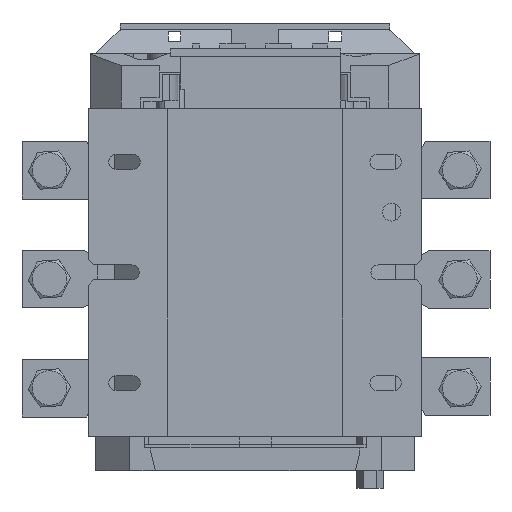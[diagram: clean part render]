
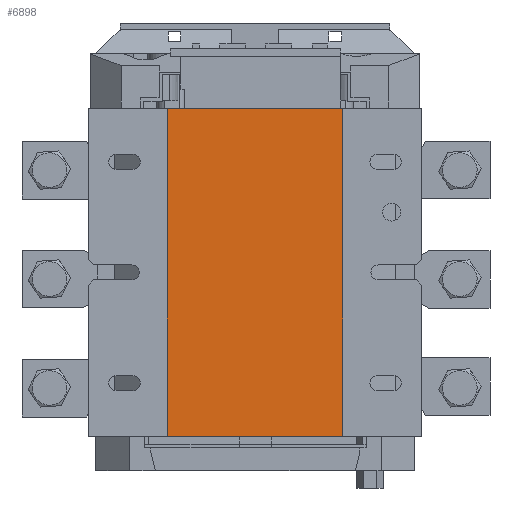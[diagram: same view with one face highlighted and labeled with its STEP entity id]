
A CAD part, front view. The second image highlights one B-rep face of the part: STEP entity #6898.
In plain terms, the highlighted planar face has unit normal (0, -1, 0).
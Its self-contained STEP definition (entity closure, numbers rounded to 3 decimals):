
#3291 = DIRECTION ( 'NONE',  ( 1., 0., 0. ) ) ;
#3292 = VECTOR ( 'NONE', #3291, 1000. ) ;
#3293 = CARTESIAN_POINT ( 'NONE',  ( -38., 0., 142.1 ) ) ;
#3294 = LINE ( 'NONE', #3293, #3292 ) ;
#3295 = CARTESIAN_POINT ( 'NONE',  ( -38., 0., 142.1 ) ) ;
#3396 = CARTESIAN_POINT ( 'NONE',  ( 38., 0., 142.1 ) ) ;
#6756 = VERTEX_POINT ( 'NONE', #17495 ) ;
#6780 = VERTEX_POINT ( 'NONE', #17588 ) ;
#6782 = EDGE_CURVE ( 'NONE', #6756, #6780, #17587, .T. ) ;
#6876 = ORIENTED_EDGE ( 'NONE', *, *, #6877, .F. ) ;
#6877 = EDGE_CURVE ( 'NONE', #15513, #6780, #17748, .T. ) ;
#6878 = ORIENTED_EDGE ( 'NONE', *, *, #15454, .F. ) ;
#6879 = ORIENTED_EDGE ( 'NONE', *, *, #6895, .T. ) ;
#6895 = EDGE_CURVE ( 'NONE', #15452, #6756, #17780, .T. ) ;
#6898 = ADVANCED_FACE ( 'NONE', ( #17776 ), #17775, .F. ) ;
#6899 = EDGE_LOOP ( 'NONE', ( #6900, #6876, #6878, #6879 ) ) ;
#6900 = ORIENTED_EDGE ( 'NONE', *, *, #6782, .T. ) ;
#15452 = VERTEX_POINT ( 'NONE', #3295 ) ;
#15454 = EDGE_CURVE ( 'NONE', #15452, #15513, #3294, .T. ) ;
#15513 = VERTEX_POINT ( 'NONE', #3396 ) ;
#17495 = CARTESIAN_POINT ( 'NONE',  ( -38., 0., 0. ) ) ;
#17584 = DIRECTION ( 'NONE',  ( 1., 0., 0. ) ) ;
#17585 = VECTOR ( 'NONE', #17584, 1000. ) ;
#17586 = CARTESIAN_POINT ( 'NONE',  ( -38., 0., 0. ) ) ;
#17587 = LINE ( 'NONE', #17586, #17585 ) ;
#17588 = CARTESIAN_POINT ( 'NONE',  ( 38., 0., 0. ) ) ;
#17745 = DIRECTION ( 'NONE',  ( 0., 0., -1. ) ) ;
#17746 = VECTOR ( 'NONE', #17745, 1000. ) ;
#17747 = CARTESIAN_POINT ( 'NONE',  ( 38., 0., 142.1 ) ) ;
#17748 = LINE ( 'NONE', #17747, #17746 ) ;
#17771 = DIRECTION ( 'NONE',  ( -1., 0., 0. ) ) ;
#17772 = DIRECTION ( 'NONE',  ( 0., 1., 0. ) ) ;
#17773 = CARTESIAN_POINT ( 'NONE',  ( -38., 0., 142.1 ) ) ;
#17774 = AXIS2_PLACEMENT_3D ( 'NONE', #17773, #17772, #17771 ) ;
#17775 = PLANE ( 'NONE',  #17774 ) ;
#17776 = FACE_OUTER_BOUND ( 'NONE', #6899, .T. ) ;
#17777 = DIRECTION ( 'NONE',  ( 0., 0., -1. ) ) ;
#17778 = VECTOR ( 'NONE', #17777, 1000. ) ;
#17779 = CARTESIAN_POINT ( 'NONE',  ( -38., 0., 142.1 ) ) ;
#17780 = LINE ( 'NONE', #17779, #17778 ) ;
